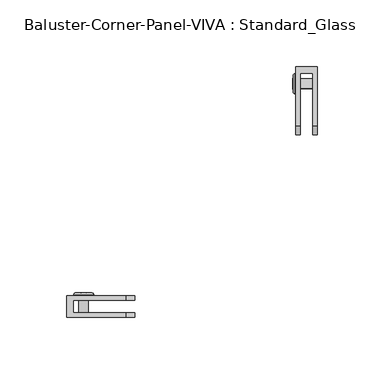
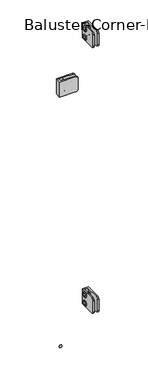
"""IFC4 building model written with IfcOpenShell, lengths in millimetres: railing geometry, Baluster-Corner-Panel-VIVA : Standard_Glass."""

from ifc_helpers import new_model, si_unit, point, frame, origin, place, context, project, spatial, polyline, circle_curve, ellipse_curve, trimmed, outline, extrude, source, transform, mapped, element, save
from ifc_brep_helpers import plane_surface, cylinder_surface, revolved_surface, advanced_brep


def baluster_corner_panel_viva_standard_glass_66f1dce7(model_context):
    return source(origin(), model_context, "Body", "SolidModel", [
        extrude(outline(polyline([(138.8430451, 917.178125), (136.7960809, 913.6326791), (132.7021526, 913.6326791), (130.6551885, 917.178125), (132.7021526, 920.7235709), (136.7960809, 920.7235709), (138.8430451, 917.178125)])), frame((21.7024185, 0.0, 0.0), z_axis=(1.0, 0.0, 0.0), x_axis=(0.0, 1.0, 0.0)), (0.0, 0.0, 1.0), 1.4969696),
        advanced_brep(
        [(36.7665, 138.2945627, 917.178125), (36.7665, 131.2036709, 917.178125), (24.0665, 131.2036709, 917.178125), (24.0665, 138.2945627, 917.178125), (24.0665, 127.3413277, 917.178125), (24.0665, 142.1569059, 917.178125), (23.199388, 136.4051922, 917.178125), (23.199388, 133.0930414, 917.178125), (36.7665, 133.0930414, 917.178125), (36.7665, 136.4051922, 917.178125), (23.2316551, 142.1569059, 917.178125), (23.2316551, 127.3413277, 917.178125), (21.9503831, 128.6225997, 917.178125), (21.9503831, 140.8756338, 917.178125), (21.9503831, 130.4505212, 917.178125), (21.9503831, 139.0477123, 917.178125), (23.199388, 130.4505212, 917.178125), (23.199388, 139.0477123, 917.178125)],
        [
            (0, 1, circle_curve(frame((36.7665, 134.7491168, 917.178125), z_axis=(-1.0, 0.0, 0.0), x_axis=(0.0, -1.0, 0.0)), 3.5454459)),
            (1, 2),
            (2, 3, circle_curve(frame((24.0665, 134.7491168, 917.178125), z_axis=(1.0, 0.0, 0.0), x_axis=(0.0, -1.0, 0.0)), 3.5454459)),
            (3, 0),
            (1, 0, circle_curve(frame((36.7665, 134.7491168, 917.178125), z_axis=(-1.0, 0.0, 0.0), x_axis=(0.0, -1.0, 0.0)), 3.5454459)),
            (3, 2, circle_curve(frame((24.0665, 134.7491168, 917.178125), z_axis=(1.0, 0.0, 0.0), x_axis=(0.0, -1.0, 0.0)), 3.5454459)),
            (2, 4),
            (4, 5, circle_curve(frame((24.0665, 134.7491168, 917.178125), z_axis=(1.0, 0.0, 0.0), x_axis=(0.0, -1.0, 0.0)), 7.4077891)),
            (5, 3),
            (5, 4, circle_curve(frame((24.0665, 134.7491168, 917.178125), z_axis=(1.0, 0.0, 0.0), x_axis=(0.0, -1.0, 0.0)), 7.4077891)),
            (6, 7, circle_curve(frame((23.199388, 134.7491168, 917.178125), z_axis=(-1.0, 0.0, 0.0), x_axis=(0.0, -1.0, 0.0)), 1.6560754)),
            (7, 8),
            (8, 9, circle_curve(frame((36.7665, 134.7491168, 917.178125), z_axis=(1.0, 0.0, 0.0), x_axis=(0.0, -1.0, 0.0)), 1.6560754)),
            (9, 6),
            (7, 6, circle_curve(frame((23.199388, 134.7491168, 917.178125), z_axis=(-1.0, 0.0, 0.0), x_axis=(0.0, -1.0, 0.0)), 1.6560754)),
            (9, 8, circle_curve(frame((36.7665, 134.7491168, 917.178125), z_axis=(1.0, 0.0, 0.0), x_axis=(0.0, -1.0, 0.0)), 1.6560754)),
            (10, 11, circle_curve(frame((23.2316551, 134.7491168, 917.178125), z_axis=(-1.0, 0.0, 0.0), x_axis=(0.0, -1.0, 0.0)), 7.4077891)),
            (11, 12, circle_curve(frame((23.2316551, 128.6225997, 917.178125), z_axis=(0.0, 0.0, -1.0), x_axis=(0.0, -1.0, 0.0)), 1.281272)),
            (12, 13, circle_curve(frame((21.9503831, 134.7491168, 917.178125), z_axis=(1.0, 0.0, 0.0), x_axis=(0.0, -1.0, 0.0)), 6.1265171)),
            (13, 10, circle_curve(frame((23.2316551, 140.8756338, 917.178125), z_axis=(0.0, 0.0, -1.0), x_axis=(0.0, 1.0, 0.0)), 1.281272)),
            (11, 10, circle_curve(frame((23.2316551, 134.7491168, 917.178125), z_axis=(-1.0, 0.0, 0.0), x_axis=(0.0, -1.0, 0.0)), 7.4077891)),
            (13, 12, circle_curve(frame((21.9503831, 134.7491168, 917.178125), z_axis=(1.0, 0.0, 0.0), x_axis=(0.0, -1.0, 0.0)), 6.1265171)),
            (12, 14),
            (14, 15, circle_curve(frame((21.9503831, 134.7491168, 917.178125), z_axis=(1.0, 0.0, 0.0), x_axis=(0.0, -1.0, 0.0)), 4.2985955)),
            (15, 13),
            (15, 14, circle_curve(frame((21.9503831, 134.7491168, 917.178125), z_axis=(1.0, 0.0, 0.0), x_axis=(0.0, -1.0, 0.0)), 4.2985955)),
            (4, 11),
            (10, 5),
            (8, 1),
            (0, 9),
            (14, 16),
            (16, 17, circle_curve(frame((23.199388, 134.7491168, 917.178125), z_axis=(1.0, 0.0, 0.0), x_axis=(0.0, -1.0, 0.0)), 4.2985955)),
            (17, 15),
            (17, 16, circle_curve(frame((23.199388, 134.7491168, 917.178125), z_axis=(1.0, 0.0, 0.0), x_axis=(0.0, -1.0, 0.0)), 4.2985955)),
            (16, 7),
            (6, 17),
        ],
        [
            cylinder_surface(frame((27.5632331, 134.7491168, 917.178125), z_axis=(1.0, 0.0, 0.0), x_axis=(0.0, -1.0, 0.0)), 3.5454459),
            plane_surface(frame((24.0665, 134.7491168, 917.178125), z_axis=(1.0, 0.0, 0.0), x_axis=(0.0, -1.0, 0.0))),
            revolved_surface(polyline([(36.7665, 133.0930414, 917.178125), (23.199388, 133.0930414, 917.178125)]), (27.5632331, 134.7491168, 917.178125), (1.0, 0.0, 0.0)),
            revolved_surface(trimmed(ellipse_curve(frame((23.2316551, 128.6225997, 917.178125), z_axis=(0.0, 0.0, 1.0), x_axis=(0.0, -1.0, 0.0)), 1.281272, 1.281272), [point((21.9503831, 128.6225997, 917.178125))], [point((23.2316551, 127.3413277, 917.178125))], True, "CARTESIAN"), (27.5632331, 134.7491168, 917.178125), (1.0, 0.0, 0.0)),
            plane_surface(frame((21.9503831, 134.7491168, 917.178125), z_axis=(-1.0, 0.0, 0.0), x_axis=(0.0, -1.0, 0.0))),
            cylinder_surface(frame((27.5632331, 134.7491168, 917.178125), z_axis=(1.0, 0.0, 0.0), x_axis=(0.0, -1.0, 0.0)), 7.4077891),
            plane_surface(frame((36.7665, 134.7491168, 917.178125), z_axis=(1.0, 0.0, 0.0), x_axis=(0.0, -1.0, 0.0))),
            revolved_surface(polyline([(23.199388, 130.4505213, 917.178125), (21.9503831, 130.4505213, 917.178125)]), (27.5632331, 134.7491168, 917.178125), (1.0, 0.0, 0.0)),
            plane_surface(frame((23.199388, 134.7491168, 917.178125), z_axis=(-1.0, 0.0, 0.0), x_axis=(0.0, -1.0, 0.0))),
        ],
        [
            (0, [[1, 2, 3, 4]]),
            (0, [[5, -4, 6, -2]]),
            (1, [[-3, 7, 8, 9]]),
            (1, [[-6, -9, 10, -7]]),
            (2, [[11, 12, 13, 14]]),
            (2, [[15, -14, 16, -12]]),
            (3, [[17, 18, 19, 20]]),
            (3, [[21, -20, 22, -18]]),
            (4, [[-19, 23, 24, 25]]),
            (4, [[-22, -25, 26, -23]]),
            (5, [[-8, 27, -17, 28]]),
            (5, [[-10, -28, -21, -27]]),
            (6, [[-13, 29, -1, 30]]),
            (6, [[-16, -30, -5, -29]]),
            (7, [[-24, 31, 32, 33]]),
            (7, [[-26, -33, 34, -31]]),
            (8, [[-32, 35, -11, 36]]),
            (8, [[-34, -36, -15, -35]]),
        ],
    ),
        advanced_brep(
        [(36.7665, 138.2945627, 892.571875), (36.7665, 131.2036709, 892.571875), (24.0665, 131.2036709, 892.571875), (24.0665, 138.2945627, 892.571875), (24.0665, 127.3413277, 892.571875), (24.0665, 142.1569059, 892.571875), (23.199388, 136.4051922, 892.571875), (23.199388, 133.0930414, 892.571875), (36.7665, 133.0930414, 892.571875), (36.7665, 136.4051922, 892.571875), (23.2316551, 142.1569059, 892.571875), (23.2316551, 127.3413277, 892.571875), (21.9503831, 128.6225997, 892.571875), (21.9503831, 140.8756338, 892.571875), (21.9503831, 130.4505212, 892.571875), (21.9503831, 139.0477123, 892.571875), (23.199388, 130.4505212, 892.571875), (23.199388, 139.0477123, 892.571875)],
        [
            (0, 1, circle_curve(frame((36.7665, 134.7491168, 892.571875), z_axis=(-1.0, 0.0, 0.0), x_axis=(0.0, -1.0, 0.0)), 3.5454459)),
            (1, 2),
            (2, 3, circle_curve(frame((24.0665, 134.7491168, 892.571875), z_axis=(1.0, 0.0, 0.0), x_axis=(0.0, -1.0, 0.0)), 3.5454459)),
            (3, 0),
            (1, 0, circle_curve(frame((36.7665, 134.7491168, 892.571875), z_axis=(-1.0, 0.0, 0.0), x_axis=(0.0, -1.0, 0.0)), 3.5454459)),
            (3, 2, circle_curve(frame((24.0665, 134.7491168, 892.571875), z_axis=(1.0, 0.0, 0.0), x_axis=(0.0, -1.0, 0.0)), 3.5454459)),
            (2, 4),
            (4, 5, circle_curve(frame((24.0665, 134.7491168, 892.571875), z_axis=(1.0, 0.0, 0.0), x_axis=(0.0, -1.0, 0.0)), 7.4077891)),
            (5, 3),
            (5, 4, circle_curve(frame((24.0665, 134.7491168, 892.571875), z_axis=(1.0, 0.0, 0.0), x_axis=(0.0, -1.0, 0.0)), 7.4077891)),
            (6, 7, circle_curve(frame((23.199388, 134.7491168, 892.571875), z_axis=(-1.0, 0.0, 0.0), x_axis=(0.0, -1.0, 0.0)), 1.6560754)),
            (7, 8),
            (8, 9, circle_curve(frame((36.7665, 134.7491168, 892.571875), z_axis=(1.0, 0.0, 0.0), x_axis=(0.0, -1.0, 0.0)), 1.6560754)),
            (9, 6),
            (7, 6, circle_curve(frame((23.199388, 134.7491168, 892.571875), z_axis=(-1.0, 0.0, 0.0), x_axis=(0.0, -1.0, 0.0)), 1.6560754)),
            (9, 8, circle_curve(frame((36.7665, 134.7491168, 892.571875), z_axis=(1.0, 0.0, 0.0), x_axis=(0.0, -1.0, 0.0)), 1.6560754)),
            (10, 11, circle_curve(frame((23.2316551, 134.7491168, 892.571875), z_axis=(-1.0, 0.0, 0.0), x_axis=(0.0, -1.0, 0.0)), 7.4077891)),
            (11, 12, circle_curve(frame((23.2316551, 128.6225997, 892.571875), z_axis=(0.0, 0.0, -1.0), x_axis=(0.0, -1.0, 0.0)), 1.281272)),
            (12, 13, circle_curve(frame((21.9503831, 134.7491168, 892.571875), z_axis=(1.0, 0.0, 0.0), x_axis=(0.0, -1.0, 0.0)), 6.1265171)),
            (13, 10, circle_curve(frame((23.2316551, 140.8756338, 892.571875), z_axis=(0.0, 0.0, -1.0), x_axis=(0.0, 1.0, 0.0)), 1.281272)),
            (11, 10, circle_curve(frame((23.2316551, 134.7491168, 892.571875), z_axis=(-1.0, 0.0, 0.0), x_axis=(0.0, -1.0, 0.0)), 7.4077891)),
            (13, 12, circle_curve(frame((21.9503831, 134.7491168, 892.571875), z_axis=(1.0, 0.0, 0.0), x_axis=(0.0, -1.0, 0.0)), 6.1265171)),
            (12, 14),
            (14, 15, circle_curve(frame((21.9503831, 134.7491168, 892.571875), z_axis=(1.0, 0.0, 0.0), x_axis=(0.0, -1.0, 0.0)), 4.2985955)),
            (15, 13),
            (15, 14, circle_curve(frame((21.9503831, 134.7491168, 892.571875), z_axis=(1.0, 0.0, 0.0), x_axis=(0.0, -1.0, 0.0)), 4.2985955)),
            (8, 1),
            (0, 9),
            (4, 11),
            (10, 5),
            (14, 16),
            (16, 17, circle_curve(frame((23.199388, 134.7491168, 892.571875), z_axis=(1.0, 0.0, 0.0), x_axis=(0.0, -1.0, 0.0)), 4.2985955)),
            (17, 15),
            (17, 16, circle_curve(frame((23.199388, 134.7491168, 892.571875), z_axis=(1.0, 0.0, 0.0), x_axis=(0.0, -1.0, 0.0)), 4.2985955)),
            (16, 7),
            (6, 17),
        ],
        [
            cylinder_surface(frame((27.5632331, 134.7491168, 892.571875), z_axis=(1.0, 0.0, 0.0), x_axis=(0.0, -1.0, 0.0)), 3.5454459),
            plane_surface(frame((24.0665, 134.7491168, 892.571875), z_axis=(1.0, 0.0, 0.0), x_axis=(0.0, -1.0, 0.0))),
            revolved_surface(polyline([(36.7665, 133.0930414, 892.571875), (23.199388, 133.0930414, 892.571875)]), (27.5632331, 134.7491168, 892.571875), (1.0, 0.0, 0.0)),
            revolved_surface(trimmed(ellipse_curve(frame((23.2316551, 128.6225997, 892.571875), z_axis=(0.0, 0.0, 1.0), x_axis=(0.0, -1.0, 0.0)), 1.281272, 1.281272), [point((21.9503831, 128.6225997, 892.571875))], [point((23.2316551, 127.3413277, 892.571875))], True, "CARTESIAN"), (27.5632331, 134.7491168, 892.571875), (1.0, 0.0, 0.0)),
            plane_surface(frame((21.9503831, 134.7491168, 892.571875), z_axis=(-1.0, 0.0, 0.0), x_axis=(0.0, -1.0, 0.0))),
            plane_surface(frame((36.7665, 134.7491168, 892.571875), z_axis=(1.0, 0.0, 0.0), x_axis=(0.0, -1.0, 0.0))),
            cylinder_surface(frame((27.5632331, 134.7491168, 892.571875), z_axis=(1.0, 0.0, 0.0), x_axis=(0.0, -1.0, 0.0)), 7.4077891),
            revolved_surface(polyline([(23.199388, 130.4505213, 892.571875), (21.9503831, 130.4505213, 892.571875)]), (27.5632331, 134.7491168, 892.571875), (1.0, 0.0, 0.0)),
            plane_surface(frame((23.199388, 134.7491168, 892.571875), z_axis=(-1.0, 0.0, 0.0), x_axis=(0.0, -1.0, 0.0))),
        ],
        [
            (0, [[1, 2, 3, 4]]),
            (0, [[5, -4, 6, -2]]),
            (1, [[-3, 7, 8, 9]]),
            (1, [[-6, -9, 10, -7]]),
            (2, [[11, 12, 13, 14]]),
            (2, [[15, -14, 16, -12]]),
            (3, [[17, 18, 19, 20]]),
            (3, [[21, -20, 22, -18]]),
            (4, [[-19, 23, 24, 25]]),
            (4, [[-22, -25, 26, -23]]),
            (5, [[-13, 27, -1, 28]]),
            (5, [[-16, -28, -5, -27]]),
            (6, [[-8, 29, -17, 30]]),
            (6, [[-10, -30, -21, -29]]),
            (7, [[-24, 31, 32, 33]]),
            (7, [[-26, -33, 34, -31]]),
            (8, [[-32, 35, -11, 36]]),
            (8, [[-34, -36, -15, -35]]),
        ],
    ),
        extrude(outline(polyline([(138.8430451, 892.571875), (136.7960809, 889.0264291), (132.7021526, 889.0264291), (130.6551885, 892.571875), (132.7021526, 896.1173209), (136.7960809, 896.1173209), (138.8430451, 892.571875)])), frame((21.7024185, 0.0, 0.0), z_axis=(1.0, 0.0, 0.0), x_axis=(0.0, 1.0, 0.0)), (0.0, 0.0, 1.0), 1.4969696),
        advanced_brep(
        [(24.0665, 147.3824615, 927.1), (24.0665, 147.3824615, 882.65), (24.0665, 102.9324615, 882.65), (24.0665, 96.5824615, 889.0), (24.0665, 96.5824615, 920.75), (24.0665, 102.9324615, 927.1), (39.9415, 147.3824615, 927.1), (39.9415, 102.9324615, 927.1), (39.9415, 96.5824615, 920.75), (39.9415, 96.5824615, 889.0), (39.9415, 102.9324615, 882.65), (39.9415, 147.3824615, 882.65), (36.7665, 102.9324615, 882.65), (36.7665, 142.6643811, 882.65), (27.2415, 142.6643811, 882.65), (27.2415, 102.9324615, 882.65), (36.7665, 142.6643811, 927.1), (27.2415, 142.6643811, 927.1), (27.2415, 102.9324615, 927.1), (27.2415, 96.5824615, 920.75), (27.2415, 96.5824615, 889.0), (36.7665, 96.5824615, 889.0), (36.7665, 96.5824615, 920.75), (36.7665, 102.9324615, 927.1)],
        [
            (0, 1),
            (1, 2),
            (2, 3, circle_curve(frame((24.0665, 102.9324615, 889.0), z_axis=(-1.0, 0.0, 0.0), x_axis=(0.0, -1.0, 0.0)), 6.35)),
            (3, 4),
            (4, 5, circle_curve(frame((24.0665, 102.9324615, 920.75), z_axis=(-1.0, 0.0, 0.0), x_axis=(0.0, -1.0, 0.0)), 6.35)),
            (5, 0),
            (6, 7),
            (7, 8, circle_curve(frame((39.9415, 102.9324615, 920.75), z_axis=(1.0, 0.0, 0.0), x_axis=(0.0, -1.0, 0.0)), 6.35)),
            (8, 9),
            (9, 10, circle_curve(frame((39.9415, 102.9324615, 889.0), z_axis=(1.0, 0.0, 0.0), x_axis=(0.0, -1.0, 0.0)), 6.35)),
            (10, 11),
            (11, 6),
            (0, 6),
            (11, 1),
            (10, 12),
            (12, 13),
            (13, 14),
            (14, 15),
            (15, 2),
            (13, 16),
            (16, 17),
            (17, 14),
            (17, 18),
            (18, 19, circle_curve(frame((27.2415, 102.9324615, 920.75), z_axis=(1.0, 0.0, 0.0), x_axis=(0.0, -1.0, 0.0)), 6.35)),
            (19, 20),
            (20, 15, circle_curve(frame((27.2415, 102.9324615, 889.0), z_axis=(1.0, 0.0, 0.0), x_axis=(0.0, -1.0, 0.0)), 6.35)),
            (12, 21, circle_curve(frame((36.7665, 102.9324615, 889.0), z_axis=(-1.0, 0.0, 0.0), x_axis=(0.0, -1.0, 0.0)), 6.35)),
            (21, 22),
            (22, 23, circle_curve(frame((36.7665, 102.9324615, 920.75), z_axis=(-1.0, 0.0, 0.0), x_axis=(0.0, -1.0, 0.0)), 6.35)),
            (23, 16),
            (20, 3),
            (9, 21),
            (19, 4),
            (8, 22),
            (18, 5),
            (7, 23),
        ],
        [
            plane_surface(frame((24.0665, 147.3824615, 882.65), z_axis=(-1.0, 0.0, 0.0), x_axis=(0.0, 0.0, -1.0))),
            plane_surface(frame((39.9415, 147.3824615, 882.65), z_axis=(1.0, 0.0, 0.0), x_axis=(0.0, 0.0, 1.0))),
            plane_surface(frame((24.0665, 147.3824615, 927.1), z_axis=(0.0, 1.0, 0.0), x_axis=(1.0, 0.0, 0.0))),
            plane_surface(frame((24.0665, 147.3824615, 882.65), z_axis=(0.0, 0.0, -1.0), x_axis=(1.0, 0.0, 0.0))),
            plane_surface(frame((36.7665, 142.6643811, 939.8), z_axis=(0.0, -1.0, 0.0), x_axis=(0.0, 0.0, -1.0))),
            plane_surface(frame((27.2415, 142.6643811, 939.8), z_axis=(1.0, 0.0, 0.0), x_axis=(0.0, 0.0, -1.0))),
            plane_surface(frame((36.7665, 83.8824615, 939.8), z_axis=(-1.0, 0.0, 0.0), x_axis=(0.0, 0.0, -1.0))),
            cylinder_surface(frame((39.9415, 102.9324615, 889.0), z_axis=(-1.0, 0.0, 0.0), x_axis=(0.0, -1.0, 0.0)), 6.35),
            plane_surface(frame((24.0665, 96.5824615, 889.0), z_axis=(0.0, -1.0, 0.0), x_axis=(1.0, 0.0, 0.0))),
            cylinder_surface(frame((39.9415, 102.9324615, 920.75), z_axis=(-1.0, 0.0, 0.0), x_axis=(0.0, -1.0, 0.0)), 6.35),
            plane_surface(frame((24.0665, 102.9324615, 927.1), z_axis=(0.0, 0.0, 1.0), x_axis=(1.0, 0.0, 0.0))),
        ],
        [
            (0, [[1, 2, 3, 4, 5, 6]]),
            (1, [[7, 8, 9, 10, 11, 12]]),
            (2, [[-1, 13, -12, 14]]),
            (3, [[-2, -14, -11, 15, 16, 17, 18, 19]]),
            (4, [[20, 21, 22, -17]]),
            (5, [[-22, 23, 24, 25, 26, -18]]),
            (6, [[-20, -16, 27, 28, 29, 30]]),
            (7, [[-3, -19, -26, 31]]),
            (7, [[-10, 32, -27, -15]]),
            (8, [[-4, -31, -25, 33]]),
            (8, [[-9, 34, -28, -32]]),
            (9, [[-5, -33, -24, 35]]),
            (9, [[-8, 36, -29, -34]]),
            (10, [[-6, -35, -23, -21, -30, -36, -7, -13]]),
        ],
    ),
        extrude(outline(polyline([(138.8430451, 138.7358896), (136.7960809, 135.1904437), (132.7021526, 135.1904437), (130.6551885, 138.7358896), (132.7021526, 142.2813355), (136.7960809, 142.2813355), (138.8430451, 138.7358896)])), frame((21.7024185, 0.0, 0.0), z_axis=(1.0, 0.0, 0.0), x_axis=(0.0, 1.0, 0.0)), (0.0, 0.0, 1.0), 1.4969696),
        advanced_brep(
        [(36.7665, 138.2945627, 138.7358896), (36.7665, 131.2036709, 138.7358896), (24.0665, 131.2036709, 138.7358896), (24.0665, 138.2945627, 138.7358896), (24.0665, 127.3413277, 138.7358896), (24.0665, 142.1569059, 138.7358896), (23.199388, 136.4051922, 138.7358896), (23.199388, 133.0930414, 138.7358896), (36.7665, 133.0930414, 138.7358896), (36.7665, 136.4051922, 138.7358896), (23.2316551, 142.1569059, 138.7358896), (23.2316551, 127.3413277, 138.7358896), (21.9503831, 128.6225997, 138.7358896), (21.9503831, 140.8756338, 138.7358896), (21.9503831, 130.4505212, 138.7358896), (21.9503831, 139.0477123, 138.7358896), (23.199388, 130.4505212, 138.7358896), (23.199388, 139.0477123, 138.7358896)],
        [
            (0, 1, circle_curve(frame((36.7665, 134.7491168, 138.7358896), z_axis=(-1.0, 0.0, 0.0), x_axis=(0.0, -1.0, 0.0)), 3.5454459)),
            (1, 2),
            (2, 3, circle_curve(frame((24.0665, 134.7491168, 138.7358896), z_axis=(1.0, 0.0, 0.0), x_axis=(0.0, -1.0, 0.0)), 3.5454459)),
            (3, 0),
            (1, 0, circle_curve(frame((36.7665, 134.7491168, 138.7358896), z_axis=(-1.0, 0.0, 0.0), x_axis=(0.0, -1.0, 0.0)), 3.5454459)),
            (3, 2, circle_curve(frame((24.0665, 134.7491168, 138.7358896), z_axis=(1.0, 0.0, 0.0), x_axis=(0.0, -1.0, 0.0)), 3.5454459)),
            (2, 4),
            (4, 5, circle_curve(frame((24.0665, 134.7491168, 138.7358896), z_axis=(1.0, 0.0, 0.0), x_axis=(0.0, -1.0, 0.0)), 7.4077891)),
            (5, 3),
            (5, 4, circle_curve(frame((24.0665, 134.7491168, 138.7358896), z_axis=(1.0, 0.0, 0.0), x_axis=(0.0, -1.0, 0.0)), 7.4077891)),
            (6, 7, circle_curve(frame((23.199388, 134.7491168, 138.7358896), z_axis=(-1.0, 0.0, 0.0), x_axis=(0.0, -1.0, 0.0)), 1.6560754)),
            (7, 8),
            (8, 9, circle_curve(frame((36.7665, 134.7491168, 138.7358896), z_axis=(1.0, 0.0, 0.0), x_axis=(0.0, -1.0, 0.0)), 1.6560754)),
            (9, 6),
            (7, 6, circle_curve(frame((23.199388, 134.7491168, 138.7358896), z_axis=(-1.0, 0.0, 0.0), x_axis=(0.0, -1.0, 0.0)), 1.6560754)),
            (9, 8, circle_curve(frame((36.7665, 134.7491168, 138.7358896), z_axis=(1.0, 0.0, 0.0), x_axis=(0.0, -1.0, 0.0)), 1.6560754)),
            (10, 11, circle_curve(frame((23.2316551, 134.7491168, 138.7358896), z_axis=(-1.0, 0.0, 0.0), x_axis=(0.0, -1.0, 0.0)), 7.4077891)),
            (11, 12, circle_curve(frame((23.2316551, 128.6225997, 138.7358896), z_axis=(0.0, 0.0, -1.0), x_axis=(0.0, -1.0, 0.0)), 1.281272)),
            (12, 13, circle_curve(frame((21.9503831, 134.7491168, 138.7358896), z_axis=(1.0, 0.0, 0.0), x_axis=(0.0, -1.0, 0.0)), 6.1265171)),
            (13, 10, circle_curve(frame((23.2316551, 140.8756338, 138.7358896), z_axis=(0.0, 0.0, -1.0), x_axis=(0.0, 1.0, 0.0)), 1.281272)),
            (11, 10, circle_curve(frame((23.2316551, 134.7491168, 138.7358896), z_axis=(-1.0, 0.0, 0.0), x_axis=(0.0, -1.0, 0.0)), 7.4077891)),
            (13, 12, circle_curve(frame((21.9503831, 134.7491168, 138.7358896), z_axis=(1.0, 0.0, 0.0), x_axis=(0.0, -1.0, 0.0)), 6.1265171)),
            (12, 14),
            (14, 15, circle_curve(frame((21.9503831, 134.7491168, 138.7358896), z_axis=(1.0, 0.0, 0.0), x_axis=(0.0, -1.0, 0.0)), 4.2985955)),
            (15, 13),
            (15, 14, circle_curve(frame((21.9503831, 134.7491168, 138.7358896), z_axis=(1.0, 0.0, 0.0), x_axis=(0.0, -1.0, 0.0)), 4.2985955)),
            (4, 11),
            (10, 5),
            (8, 1),
            (0, 9),
            (14, 16),
            (16, 17, circle_curve(frame((23.199388, 134.7491168, 138.7358896), z_axis=(1.0, 0.0, 0.0), x_axis=(0.0, -1.0, 0.0)), 4.2985955)),
            (17, 15),
            (17, 16, circle_curve(frame((23.199388, 134.7491168, 138.7358896), z_axis=(1.0, 0.0, 0.0), x_axis=(0.0, -1.0, 0.0)), 4.2985955)),
            (16, 7),
            (6, 17),
        ],
        [
            cylinder_surface(frame((27.5632331, 134.7491168, 138.7358896), z_axis=(1.0, 0.0, 0.0), x_axis=(0.0, -1.0, 0.0)), 3.5454459),
            plane_surface(frame((24.0665, 134.7491168, 138.7358896), z_axis=(1.0, 0.0, 0.0), x_axis=(0.0, -1.0, 0.0))),
            revolved_surface(polyline([(36.7665, 133.0930414, 138.7358896), (23.199388, 133.0930414, 138.7358896)]), (27.5632331, 134.7491168, 138.7358896), (1.0, 0.0, 0.0)),
            revolved_surface(trimmed(ellipse_curve(frame((23.2316551, 128.6225997, 138.7358896), z_axis=(0.0, 0.0, 1.0), x_axis=(0.0, -1.0, 0.0)), 1.281272, 1.281272), [point((21.9503831, 128.6225997, 138.7358896))], [point((23.2316551, 127.3413277, 138.7358896))], True, "CARTESIAN"), (27.5632331, 134.7491168, 138.7358896), (1.0, 0.0, 0.0)),
            plane_surface(frame((21.9503831, 134.7491168, 138.7358896), z_axis=(-1.0, 0.0, 0.0), x_axis=(0.0, -1.0, 0.0))),
            cylinder_surface(frame((27.5632331, 134.7491168, 138.7358896), z_axis=(1.0, 0.0, 0.0), x_axis=(0.0, -1.0, 0.0)), 7.4077891),
            plane_surface(frame((36.7665, 134.7491168, 138.7358896), z_axis=(1.0, 0.0, 0.0), x_axis=(0.0, -1.0, 0.0))),
            revolved_surface(polyline([(23.199388, 130.4505213, 138.7358896), (21.9503831, 130.4505213, 138.7358896)]), (27.5632331, 134.7491168, 138.7358896), (1.0, 0.0, 0.0)),
            plane_surface(frame((23.199388, 134.7491168, 138.7358896), z_axis=(-1.0, 0.0, 0.0), x_axis=(0.0, -1.0, 0.0))),
        ],
        [
            (0, [[1, 2, 3, 4]]),
            (0, [[5, -4, 6, -2]]),
            (1, [[-3, 7, 8, 9]]),
            (1, [[-6, -9, 10, -7]]),
            (2, [[11, 12, 13, 14]]),
            (2, [[15, -14, 16, -12]]),
            (3, [[17, 18, 19, 20]]),
            (3, [[21, -20, 22, -18]]),
            (4, [[-19, 23, 24, 25]]),
            (4, [[-22, -25, 26, -23]]),
            (5, [[-8, 27, -17, 28]]),
            (5, [[-10, -28, -21, -27]]),
            (6, [[-13, 29, -1, 30]]),
            (6, [[-16, -30, -5, -29]]),
            (7, [[-24, 31, 32, 33]]),
            (7, [[-26, -33, 34, -31]]),
            (8, [[-32, 35, -11, 36]]),
            (8, [[-34, -36, -15, -35]]),
        ],
    ),
        advanced_brep(
        [(36.7665, 138.2945627, 114.1296396), (36.7665, 131.2036709, 114.1296396), (24.0665, 131.2036709, 114.1296396), (24.0665, 138.2945627, 114.1296396), (24.0665, 127.3413277, 114.1296396), (24.0665, 142.1569059, 114.1296396), (23.199388, 136.4051922, 114.1296396), (23.199388, 133.0930414, 114.1296396), (36.7665, 133.0930414, 114.1296396), (36.7665, 136.4051922, 114.1296396), (23.2316551, 142.1569059, 114.1296396), (23.2316551, 127.3413277, 114.1296396), (21.9503831, 128.6225997, 114.1296396), (21.9503831, 140.8756338, 114.1296396), (21.9503831, 130.4505212, 114.1296396), (21.9503831, 139.0477123, 114.1296396), (23.199388, 130.4505212, 114.1296396), (23.199388, 139.0477123, 114.1296396)],
        [
            (0, 1, circle_curve(frame((36.7665, 134.7491168, 114.1296396), z_axis=(-1.0, 0.0, 0.0), x_axis=(0.0, -1.0, 0.0)), 3.5454459)),
            (1, 2),
            (2, 3, circle_curve(frame((24.0665, 134.7491168, 114.1296396), z_axis=(1.0, 0.0, 0.0), x_axis=(0.0, -1.0, 0.0)), 3.5454459)),
            (3, 0),
            (1, 0, circle_curve(frame((36.7665, 134.7491168, 114.1296396), z_axis=(-1.0, 0.0, 0.0), x_axis=(0.0, -1.0, 0.0)), 3.5454459)),
            (3, 2, circle_curve(frame((24.0665, 134.7491168, 114.1296396), z_axis=(1.0, 0.0, 0.0), x_axis=(0.0, -1.0, 0.0)), 3.5454459)),
            (2, 4),
            (4, 5, circle_curve(frame((24.0665, 134.7491168, 114.1296396), z_axis=(1.0, 0.0, 0.0), x_axis=(0.0, -1.0, 0.0)), 7.4077891)),
            (5, 3),
            (5, 4, circle_curve(frame((24.0665, 134.7491168, 114.1296396), z_axis=(1.0, 0.0, 0.0), x_axis=(0.0, -1.0, 0.0)), 7.4077891)),
            (6, 7, circle_curve(frame((23.199388, 134.7491168, 114.1296396), z_axis=(-1.0, 0.0, 0.0), x_axis=(0.0, -1.0, 0.0)), 1.6560754)),
            (7, 8),
            (8, 9, circle_curve(frame((36.7665, 134.7491168, 114.1296396), z_axis=(1.0, 0.0, 0.0), x_axis=(0.0, -1.0, 0.0)), 1.6560754)),
            (9, 6),
            (7, 6, circle_curve(frame((23.199388, 134.7491168, 114.1296396), z_axis=(-1.0, 0.0, 0.0), x_axis=(0.0, -1.0, 0.0)), 1.6560754)),
            (9, 8, circle_curve(frame((36.7665, 134.7491168, 114.1296396), z_axis=(1.0, 0.0, 0.0), x_axis=(0.0, -1.0, 0.0)), 1.6560754)),
            (10, 11, circle_curve(frame((23.2316551, 134.7491168, 114.1296396), z_axis=(-1.0, 0.0, 0.0), x_axis=(0.0, -1.0, 0.0)), 7.4077891)),
            (11, 12, circle_curve(frame((23.2316551, 128.6225997, 114.1296396), z_axis=(0.0, 0.0, -1.0), x_axis=(0.0, -1.0, 0.0)), 1.281272)),
            (12, 13, circle_curve(frame((21.9503831, 134.7491168, 114.1296396), z_axis=(1.0, 0.0, 0.0), x_axis=(0.0, -1.0, 0.0)), 6.1265171)),
            (13, 10, circle_curve(frame((23.2316551, 140.8756338, 114.1296396), z_axis=(0.0, 0.0, -1.0), x_axis=(0.0, 1.0, 0.0)), 1.281272)),
            (11, 10, circle_curve(frame((23.2316551, 134.7491168, 114.1296396), z_axis=(-1.0, 0.0, 0.0), x_axis=(0.0, -1.0, 0.0)), 7.4077891)),
            (13, 12, circle_curve(frame((21.9503831, 134.7491168, 114.1296396), z_axis=(1.0, 0.0, 0.0), x_axis=(0.0, -1.0, 0.0)), 6.1265171)),
            (12, 14),
            (14, 15, circle_curve(frame((21.9503831, 134.7491168, 114.1296396), z_axis=(1.0, 0.0, 0.0), x_axis=(0.0, -1.0, 0.0)), 4.2985955)),
            (15, 13),
            (15, 14, circle_curve(frame((21.9503831, 134.7491168, 114.1296396), z_axis=(1.0, 0.0, 0.0), x_axis=(0.0, -1.0, 0.0)), 4.2985955)),
            (8, 1),
            (0, 9),
            (4, 11),
            (10, 5),
            (14, 16),
            (16, 17, circle_curve(frame((23.199388, 134.7491168, 114.1296396), z_axis=(1.0, 0.0, 0.0), x_axis=(0.0, -1.0, 0.0)), 4.2985955)),
            (17, 15),
            (17, 16, circle_curve(frame((23.199388, 134.7491168, 114.1296396), z_axis=(1.0, 0.0, 0.0), x_axis=(0.0, -1.0, 0.0)), 4.2985955)),
            (16, 7),
            (6, 17),
        ],
        [
            cylinder_surface(frame((27.5632331, 134.7491168, 114.1296396), z_axis=(1.0, 0.0, 0.0), x_axis=(0.0, -1.0, 0.0)), 3.5454459),
            plane_surface(frame((24.0665, 134.7491168, 114.1296396), z_axis=(1.0, 0.0, 0.0), x_axis=(0.0, -1.0, 0.0))),
            revolved_surface(polyline([(36.7665, 133.0930414, 114.1296396), (23.199388, 133.0930414, 114.1296396)]), (27.5632331, 134.7491168, 114.1296396), (1.0, 0.0, 0.0)),
            revolved_surface(trimmed(ellipse_curve(frame((23.2316551, 128.6225997, 114.1296396), z_axis=(0.0, 0.0, 1.0), x_axis=(0.0, -1.0, 0.0)), 1.281272, 1.281272), [point((21.9503831, 128.6225997, 114.1296396))], [point((23.2316551, 127.3413277, 114.1296396))], True, "CARTESIAN"), (27.5632331, 134.7491168, 114.1296396), (1.0, 0.0, 0.0)),
            plane_surface(frame((21.9503831, 134.7491168, 114.1296396), z_axis=(-1.0, 0.0, 0.0), x_axis=(0.0, -1.0, 0.0))),
            plane_surface(frame((36.7665, 134.7491168, 114.1296396), z_axis=(1.0, 0.0, 0.0), x_axis=(0.0, -1.0, 0.0))),
            cylinder_surface(frame((27.5632331, 134.7491168, 114.1296396), z_axis=(1.0, 0.0, 0.0), x_axis=(0.0, -1.0, 0.0)), 7.4077891),
            revolved_surface(polyline([(23.199388, 130.4505213, 114.1296396), (21.9503831, 130.4505213, 114.1296396)]), (27.5632331, 134.7491168, 114.1296396), (1.0, 0.0, 0.0)),
            plane_surface(frame((23.199388, 134.7491168, 114.1296396), z_axis=(-1.0, 0.0, 0.0), x_axis=(0.0, -1.0, 0.0))),
        ],
        [
            (0, [[1, 2, 3, 4]]),
            (0, [[5, -4, 6, -2]]),
            (1, [[-3, 7, 8, 9]]),
            (1, [[-6, -9, 10, -7]]),
            (2, [[11, 12, 13, 14]]),
            (2, [[15, -14, 16, -12]]),
            (3, [[17, 18, 19, 20]]),
            (3, [[21, -20, 22, -18]]),
            (4, [[-19, 23, 24, 25]]),
            (4, [[-22, -25, 26, -23]]),
            (5, [[-13, 27, -1, 28]]),
            (5, [[-16, -28, -5, -27]]),
            (6, [[-8, 29, -17, 30]]),
            (6, [[-10, -30, -21, -29]]),
            (7, [[-24, 31, 32, 33]]),
            (7, [[-26, -33, 34, -31]]),
            (8, [[-32, 35, -11, 36]]),
            (8, [[-34, -36, -15, -35]]),
        ],
    ),
        extrude(outline(polyline([(138.8430451, 114.1296396), (136.7960809, 110.5841937), (132.7021526, 110.5841937), (130.6551885, 114.1296396), (132.7021526, 117.6750855), (136.7960809, 117.6750855), (138.8430451, 114.1296396)])), frame((21.7024185, 0.0, 0.0), z_axis=(1.0, 0.0, 0.0), x_axis=(0.0, 1.0, 0.0)), (0.0, 0.0, 1.0), 1.4969696),
        advanced_brep(
        [(24.0665, 147.3824615, 148.6577646), (24.0665, 147.3824615, 104.2077646), (24.0665, 102.9324615, 104.2077646), (24.0665, 96.5824615, 110.5577646), (24.0665, 96.5824615, 142.3077646), (24.0665, 102.9324615, 148.6577646), (39.9415, 147.3824615, 148.6577646), (39.9415, 102.9324615, 148.6577646), (39.9415, 96.5824615, 142.3077646), (39.9415, 96.5824615, 110.5577646), (39.9415, 102.9324615, 104.2077646), (39.9415, 147.3824615, 104.2077646), (36.7665, 102.9324615, 104.2077646), (36.7665, 142.6643811, 104.2077646), (27.2415, 142.6643811, 104.2077646), (27.2415, 102.9324615, 104.2077646), (36.7665, 142.6643811, 148.6577646), (27.2415, 142.6643811, 148.6577646), (27.2415, 102.9324615, 148.6577646), (27.2415, 96.5824615, 142.3077646), (27.2415, 96.5824615, 110.5577646), (36.7665, 96.5824615, 110.5577646), (36.7665, 96.5824615, 142.3077646), (36.7665, 102.9324615, 148.6577646)],
        [
            (0, 1),
            (1, 2),
            (2, 3, circle_curve(frame((24.0665, 102.9324615, 110.5577646), z_axis=(-1.0, 0.0, 0.0), x_axis=(0.0, -1.0, 0.0)), 6.35)),
            (3, 4),
            (4, 5, circle_curve(frame((24.0665, 102.9324615, 142.3077646), z_axis=(-1.0, 0.0, 0.0), x_axis=(0.0, -1.0, 0.0)), 6.35)),
            (5, 0),
            (6, 7),
            (7, 8, circle_curve(frame((39.9415, 102.9324615, 142.3077646), z_axis=(1.0, 0.0, 0.0), x_axis=(0.0, -1.0, 0.0)), 6.35)),
            (8, 9),
            (9, 10, circle_curve(frame((39.9415, 102.9324615, 110.5577646), z_axis=(1.0, 0.0, 0.0), x_axis=(0.0, -1.0, 0.0)), 6.35)),
            (10, 11),
            (11, 6),
            (0, 6),
            (11, 1),
            (10, 12),
            (12, 13),
            (13, 14),
            (14, 15),
            (15, 2),
            (13, 16),
            (16, 17),
            (17, 14),
            (17, 18),
            (18, 19, circle_curve(frame((27.2415, 102.9324615, 142.3077646), z_axis=(1.0, 0.0, 0.0), x_axis=(0.0, -1.0, 0.0)), 6.35)),
            (19, 20),
            (20, 15, circle_curve(frame((27.2415, 102.9324615, 110.5577646), z_axis=(1.0, 0.0, 0.0), x_axis=(0.0, -1.0, 0.0)), 6.35)),
            (12, 21, circle_curve(frame((36.7665, 102.9324615, 110.5577646), z_axis=(-1.0, 0.0, 0.0), x_axis=(0.0, -1.0, 0.0)), 6.35)),
            (21, 22),
            (22, 23, circle_curve(frame((36.7665, 102.9324615, 142.3077646), z_axis=(-1.0, 0.0, 0.0), x_axis=(0.0, -1.0, 0.0)), 6.35)),
            (23, 16),
            (20, 3),
            (9, 21),
            (19, 4),
            (8, 22),
            (18, 5),
            (7, 23),
        ],
        [
            plane_surface(frame((24.0665, 147.3824615, 104.2077646), z_axis=(-1.0, 0.0, 0.0), x_axis=(0.0, 0.0, -1.0))),
            plane_surface(frame((39.9415, 147.3824615, 104.2077646), z_axis=(1.0, 0.0, 0.0), x_axis=(0.0, 0.0, 1.0))),
            plane_surface(frame((24.0665, 147.3824615, 148.6577646), z_axis=(0.0, 1.0, 0.0), x_axis=(1.0, 0.0, 0.0))),
            plane_surface(frame((24.0665, 147.3824615, 104.2077646), z_axis=(0.0, 0.0, -1.0), x_axis=(1.0, 0.0, 0.0))),
            plane_surface(frame((36.7665, 142.6643811, 161.3577646), z_axis=(0.0, -1.0, 0.0), x_axis=(0.0, 0.0, -1.0))),
            plane_surface(frame((27.2415, 142.6643811, 161.3577646), z_axis=(1.0, 0.0, 0.0), x_axis=(0.0, 0.0, -1.0))),
            plane_surface(frame((36.7665, 83.8824615, 161.3577646), z_axis=(-1.0, 0.0, 0.0), x_axis=(0.0, 0.0, -1.0))),
            cylinder_surface(frame((39.9415, 102.9324615, 110.5577646), z_axis=(-1.0, 0.0, 0.0), x_axis=(0.0, -1.0, 0.0)), 6.35),
            plane_surface(frame((24.0665, 96.5824615, 110.5577646), z_axis=(0.0, -1.0, 0.0), x_axis=(1.0, 0.0, 0.0))),
            cylinder_surface(frame((39.9415, 102.9324615, 142.3077646), z_axis=(-1.0, 0.0, 0.0), x_axis=(0.0, -1.0, 0.0)), 6.35),
            plane_surface(frame((24.0665, 102.9324615, 148.6577646), z_axis=(0.0, 0.0, 1.0), x_axis=(1.0, 0.0, 0.0))),
        ],
        [
            (0, [[1, 2, 3, 4, 5, 6]]),
            (1, [[7, 8, 9, 10, 11, 12]]),
            (2, [[-1, 13, -12, 14]]),
            (3, [[-2, -14, -11, 15, 16, 17, 18, 19]]),
            (4, [[20, 21, 22, -17]]),
            (5, [[-22, 23, 24, 25, 26, -18]]),
            (6, [[-20, -16, 27, 28, 29, 30]]),
            (7, [[-3, -19, -26, 31]]),
            (7, [[-10, 32, -27, -15]]),
            (8, [[-4, -31, -25, 33]]),
            (8, [[-9, 34, -28, -32]]),
            (9, [[-5, -33, -24, 35]]),
            (9, [[-8, 36, -29, -34]]),
            (10, [[-6, -35, -23, -21, -30, -36, -7, -13]]),
        ],
    ),
        extrude(outline(polyline([(917.178125, -138.9194392), (913.6326791, -136.8724751), (913.6326791, -132.7785468), (917.178125, -130.7315827), (920.7235709, -132.7785468), (920.7235709, -136.8724751), (917.178125, -138.9194392)])), frame((0.0, -23.199388, 0.0), z_axis=(0.0, 1.0, 0.0), x_axis=(0.0, 0.0, 1.0)), (0.0, 0.0, 1.0), 1.4969696),
        advanced_brep(
        [(-138.3709569, -36.7665, 917.178125), (-138.3709569, -24.0665, 917.178125), (-131.280065, -24.0665, 917.178125), (-131.280065, -36.7665, 917.178125), (-142.2333, -24.0665, 917.178125), (-127.4177219, -24.0665, 917.178125), (-136.4815863, -23.199388, 917.178125), (-136.4815863, -36.7665, 917.178125), (-133.1694356, -36.7665, 917.178125), (-133.1694356, -23.199388, 917.178125), (-142.2333, -23.2316551, 917.178125), (-140.952028, -21.9503831, 917.178125), (-128.6989939, -21.9503831, 917.178125), (-127.4177219, -23.2316551, 917.178125), (-139.1241065, -21.9503831, 917.178125), (-130.5269154, -21.9503831, 917.178125), (-139.1241065, -23.199388, 917.178125), (-130.5269154, -23.199388, 917.178125)],
        [
            (0, 1),
            (1, 2, circle_curve(frame((-134.825511, -24.0665, 917.178125), z_axis=(0.0, -1.0, 0.0), x_axis=(1.0, 0.0, 0.0)), 3.5454459)),
            (2, 3),
            (3, 0, circle_curve(frame((-134.825511, -36.7665, 917.178125), z_axis=(0.0, 1.0, 0.0), x_axis=(1.0, 0.0, 0.0)), 3.5454459)),
            (2, 1, circle_curve(frame((-134.825511, -24.0665, 917.178125), z_axis=(0.0, -1.0, 0.0), x_axis=(1.0, 0.0, 0.0)), 3.5454459)),
            (0, 3, circle_curve(frame((-134.825511, -36.7665, 917.178125), z_axis=(0.0, 1.0, 0.0), x_axis=(1.0, 0.0, 0.0)), 3.5454459)),
            (1, 4),
            (4, 5, circle_curve(frame((-134.825511, -24.0665, 917.178125), z_axis=(0.0, -1.0, 0.0), x_axis=(1.0, 0.0, 0.0)), 7.4077891)),
            (5, 2),
            (5, 4, circle_curve(frame((-134.825511, -24.0665, 917.178125), z_axis=(0.0, -1.0, 0.0), x_axis=(1.0, 0.0, 0.0)), 7.4077891)),
            (6, 7),
            (7, 8, circle_curve(frame((-134.825511, -36.7665, 917.178125), z_axis=(0.0, -1.0, 0.0), x_axis=(1.0, 0.0, 0.0)), 1.6560754)),
            (8, 9),
            (9, 6, circle_curve(frame((-134.825511, -23.199388, 917.178125), z_axis=(0.0, 1.0, 0.0), x_axis=(1.0, 0.0, 0.0)), 1.6560754)),
            (8, 7, circle_curve(frame((-134.825511, -36.7665, 917.178125), z_axis=(0.0, -1.0, 0.0), x_axis=(1.0, 0.0, 0.0)), 1.6560754)),
            (6, 9, circle_curve(frame((-134.825511, -23.199388, 917.178125), z_axis=(0.0, 1.0, 0.0), x_axis=(1.0, 0.0, 0.0)), 1.6560754)),
            (10, 11, circle_curve(frame((-140.952028, -23.2316551, 917.178125), z_axis=(0.0, 0.0, -1.0), x_axis=(-1.0, 0.0, 0.0)), 1.281272)),
            (11, 12, circle_curve(frame((-134.825511, -21.9503831, 917.178125), z_axis=(0.0, -1.0, 0.0), x_axis=(1.0, 0.0, 0.0)), 6.1265171)),
            (12, 13, circle_curve(frame((-128.6989939, -23.2316551, 917.178125), z_axis=(0.0, 0.0, -1.0), x_axis=(1.0, 0.0, 0.0)), 1.281272)),
            (13, 10, circle_curve(frame((-134.825511, -23.2316551, 917.178125), z_axis=(0.0, 1.0, 0.0), x_axis=(1.0, 0.0, 0.0)), 7.4077891)),
            (12, 11, circle_curve(frame((-134.825511, -21.9503831, 917.178125), z_axis=(0.0, -1.0, 0.0), x_axis=(1.0, 0.0, 0.0)), 6.1265171)),
            (10, 13, circle_curve(frame((-134.825511, -23.2316551, 917.178125), z_axis=(0.0, 1.0, 0.0), x_axis=(1.0, 0.0, 0.0)), 7.4077891)),
            (11, 14),
            (14, 15, circle_curve(frame((-134.825511, -21.9503831, 917.178125), z_axis=(0.0, -1.0, 0.0), x_axis=(1.0, 0.0, 0.0)), 4.2985955)),
            (15, 12),
            (15, 14, circle_curve(frame((-134.825511, -21.9503831, 917.178125), z_axis=(0.0, -1.0, 0.0), x_axis=(1.0, 0.0, 0.0)), 4.2985955)),
            (4, 10),
            (13, 5),
            (7, 0),
            (3, 8),
            (14, 16),
            (16, 17, circle_curve(frame((-134.825511, -23.199388, 917.178125), z_axis=(0.0, -1.0, 0.0), x_axis=(1.0, 0.0, 0.0)), 4.2985955)),
            (17, 15),
            (17, 16, circle_curve(frame((-134.825511, -23.199388, 917.178125), z_axis=(0.0, -1.0, 0.0), x_axis=(1.0, 0.0, 0.0)), 4.2985955)),
            (16, 6),
            (9, 17),
        ],
        [
            cylinder_surface(frame((-134.825511, -27.5632331, 917.178125), z_axis=(0.0, -1.0, 0.0), x_axis=(1.0, 0.0, 0.0)), 3.5454459),
            plane_surface(frame((-134.825511, -24.0665, 917.178125), z_axis=(0.0, -1.0, 0.0), x_axis=(1.0, 0.0, 0.0))),
            revolved_surface(polyline([(-133.1694356, -36.7665, 917.178125), (-133.1694356, -23.199388, 917.178125)]), (-134.825511, -27.5632331, 917.178125), (0.0, -1.0, 0.0)),
            revolved_surface(trimmed(ellipse_curve(frame((-128.6989939, -23.2316551, 917.178125), z_axis=(0.0, 0.0, -1.0), x_axis=(1.0, 0.0, 0.0)), 1.281272, 1.281272), [point((-128.6989939, -21.9503831, 917.178125))], [point((-127.4177219, -23.2316551, 917.178125))], True, "CARTESIAN"), (-134.825511, -27.5632331, 917.178125), (0.0, -1.0, 0.0)),
            plane_surface(frame((-134.825511, -21.9503831, 917.178125), z_axis=(0.0, 1.0, 0.0), x_axis=(1.0, 0.0, 0.0))),
            cylinder_surface(frame((-134.825511, -27.5632331, 917.178125), z_axis=(0.0, -1.0, 0.0), x_axis=(1.0, 0.0, 0.0)), 7.4077891),
            plane_surface(frame((-134.825511, -36.7665, 917.178125), z_axis=(0.0, -1.0, 0.0), x_axis=(1.0, 0.0, 0.0))),
            revolved_surface(polyline([(-130.5269155, -23.199388, 917.178125), (-130.5269155, -21.9503831, 917.178125)]), (-134.825511, -27.5632331, 917.178125), (0.0, -1.0, 0.0)),
            plane_surface(frame((-134.825511, -23.199388, 917.178125), z_axis=(0.0, 1.0, 0.0), x_axis=(1.0, 0.0, 0.0))),
        ],
        [
            (0, [[1, 2, 3, 4]]),
            (0, [[-3, 5, -1, 6]]),
            (1, [[7, 8, 9, -2]]),
            (1, [[-9, 10, -7, -5]]),
            (2, [[11, 12, 13, 14]]),
            (2, [[-13, 15, -11, 16]]),
            (3, [[17, 18, 19, 20]]),
            (3, [[-19, 21, -17, 22]]),
            (4, [[23, 24, 25, -18]]),
            (4, [[-25, 26, -23, -21]]),
            (5, [[27, -20, 28, -8]]),
            (5, [[-28, -22, -27, -10]]),
            (6, [[29, -4, 30, -12]]),
            (6, [[-30, -6, -29, -15]]),
            (7, [[31, 32, 33, -24]]),
            (7, [[-33, 34, -31, -26]]),
            (8, [[35, -14, 36, -32]]),
            (8, [[-36, -16, -35, -34]]),
        ],
    ),
        advanced_brep(
        [(-138.3709569, -36.7665, 892.571875), (-138.3709569, -24.0665, 892.571875), (-131.280065, -24.0665, 892.571875), (-131.280065, -36.7665, 892.571875), (-142.2333, -24.0665, 892.571875), (-127.4177219, -24.0665, 892.571875), (-136.4815863, -23.199388, 892.571875), (-136.4815863, -36.7665, 892.571875), (-133.1694356, -36.7665, 892.571875), (-133.1694356, -23.199388, 892.571875), (-142.2333, -23.2316551, 892.571875), (-140.952028, -21.9503831, 892.571875), (-128.6989939, -21.9503831, 892.571875), (-127.4177219, -23.2316551, 892.571875), (-139.1241065, -21.9503831, 892.571875), (-130.5269154, -21.9503831, 892.571875), (-139.1241065, -23.199388, 892.571875), (-130.5269154, -23.199388, 892.571875)],
        [
            (0, 1),
            (1, 2, circle_curve(frame((-134.825511, -24.0665, 892.571875), z_axis=(0.0, -1.0, 0.0), x_axis=(1.0, 0.0, 0.0)), 3.5454459)),
            (2, 3),
            (3, 0, circle_curve(frame((-134.825511, -36.7665, 892.571875), z_axis=(0.0, 1.0, 0.0), x_axis=(1.0, 0.0, 0.0)), 3.5454459)),
            (2, 1, circle_curve(frame((-134.825511, -24.0665, 892.571875), z_axis=(0.0, -1.0, 0.0), x_axis=(1.0, 0.0, 0.0)), 3.5454459)),
            (0, 3, circle_curve(frame((-134.825511, -36.7665, 892.571875), z_axis=(0.0, 1.0, 0.0), x_axis=(1.0, 0.0, 0.0)), 3.5454459)),
            (1, 4),
            (4, 5, circle_curve(frame((-134.825511, -24.0665, 892.571875), z_axis=(0.0, -1.0, 0.0), x_axis=(1.0, 0.0, 0.0)), 7.4077891)),
            (5, 2),
            (5, 4, circle_curve(frame((-134.825511, -24.0665, 892.571875), z_axis=(0.0, -1.0, 0.0), x_axis=(1.0, 0.0, 0.0)), 7.4077891)),
            (6, 7),
            (7, 8, circle_curve(frame((-134.825511, -36.7665, 892.571875), z_axis=(0.0, -1.0, 0.0), x_axis=(1.0, 0.0, 0.0)), 1.6560754)),
            (8, 9),
            (9, 6, circle_curve(frame((-134.825511, -23.199388, 892.571875), z_axis=(0.0, 1.0, 0.0), x_axis=(1.0, 0.0, 0.0)), 1.6560754)),
            (8, 7, circle_curve(frame((-134.825511, -36.7665, 892.571875), z_axis=(0.0, -1.0, 0.0), x_axis=(1.0, 0.0, 0.0)), 1.6560754)),
            (6, 9, circle_curve(frame((-134.825511, -23.199388, 892.571875), z_axis=(0.0, 1.0, 0.0), x_axis=(1.0, 0.0, 0.0)), 1.6560754)),
            (10, 11, circle_curve(frame((-140.952028, -23.2316551, 892.571875), z_axis=(0.0, 0.0, -1.0), x_axis=(-1.0, 0.0, 0.0)), 1.281272)),
            (11, 12, circle_curve(frame((-134.825511, -21.9503831, 892.571875), z_axis=(0.0, -1.0, 0.0), x_axis=(1.0, 0.0, 0.0)), 6.1265171)),
            (12, 13, circle_curve(frame((-128.6989939, -23.2316551, 892.571875), z_axis=(0.0, 0.0, -1.0), x_axis=(1.0, 0.0, 0.0)), 1.281272)),
            (13, 10, circle_curve(frame((-134.825511, -23.2316551, 892.571875), z_axis=(0.0, 1.0, 0.0), x_axis=(1.0, 0.0, 0.0)), 7.4077891)),
            (12, 11, circle_curve(frame((-134.825511, -21.9503831, 892.571875), z_axis=(0.0, -1.0, 0.0), x_axis=(1.0, 0.0, 0.0)), 6.1265171)),
            (10, 13, circle_curve(frame((-134.825511, -23.2316551, 892.571875), z_axis=(0.0, 1.0, 0.0), x_axis=(1.0, 0.0, 0.0)), 7.4077891)),
            (11, 14),
            (14, 15, circle_curve(frame((-134.825511, -21.9503831, 892.571875), z_axis=(0.0, -1.0, 0.0), x_axis=(1.0, 0.0, 0.0)), 4.2985955)),
            (15, 12),
            (15, 14, circle_curve(frame((-134.825511, -21.9503831, 892.571875), z_axis=(0.0, -1.0, 0.0), x_axis=(1.0, 0.0, 0.0)), 4.2985955)),
            (7, 0),
            (3, 8),
            (4, 10),
            (13, 5),
            (14, 16),
            (16, 17, circle_curve(frame((-134.825511, -23.199388, 892.571875), z_axis=(0.0, -1.0, 0.0), x_axis=(1.0, 0.0, 0.0)), 4.2985955)),
            (17, 15),
            (17, 16, circle_curve(frame((-134.825511, -23.199388, 892.571875), z_axis=(0.0, -1.0, 0.0), x_axis=(1.0, 0.0, 0.0)), 4.2985955)),
            (16, 6),
            (9, 17),
        ],
        [
            cylinder_surface(frame((-134.825511, -27.5632331, 892.571875), z_axis=(0.0, -1.0, 0.0), x_axis=(1.0, 0.0, 0.0)), 3.5454459),
            plane_surface(frame((-134.825511, -24.0665, 892.571875), z_axis=(0.0, -1.0, 0.0), x_axis=(1.0, 0.0, 0.0))),
            revolved_surface(polyline([(-133.1694356, -36.7665, 892.571875), (-133.1694356, -23.199388, 892.571875)]), (-134.825511, -27.5632331, 892.571875), (0.0, -1.0, 0.0)),
            revolved_surface(trimmed(ellipse_curve(frame((-128.6989939, -23.2316551, 892.571875), z_axis=(0.0, 0.0, -1.0), x_axis=(1.0, 0.0, 0.0)), 1.281272, 1.281272), [point((-128.6989939, -21.9503831, 892.571875))], [point((-127.4177219, -23.2316551, 892.571875))], True, "CARTESIAN"), (-134.825511, -27.5632331, 892.571875), (0.0, -1.0, 0.0)),
            plane_surface(frame((-134.825511, -21.9503831, 892.571875), z_axis=(0.0, 1.0, 0.0), x_axis=(1.0, 0.0, 0.0))),
            plane_surface(frame((-134.825511, -36.7665, 892.571875), z_axis=(0.0, -1.0, 0.0), x_axis=(1.0, 0.0, 0.0))),
            cylinder_surface(frame((-134.825511, -27.5632331, 892.571875), z_axis=(0.0, -1.0, 0.0), x_axis=(1.0, 0.0, 0.0)), 7.4077891),
            revolved_surface(polyline([(-130.5269155, -23.199388, 892.571875), (-130.5269155, -21.9503831, 892.571875)]), (-134.825511, -27.5632331, 892.571875), (0.0, -1.0, 0.0)),
            plane_surface(frame((-134.825511, -23.199388, 892.571875), z_axis=(0.0, 1.0, 0.0), x_axis=(1.0, 0.0, 0.0))),
        ],
        [
            (0, [[1, 2, 3, 4]]),
            (0, [[-3, 5, -1, 6]]),
            (1, [[7, 8, 9, -2]]),
            (1, [[-9, 10, -7, -5]]),
            (2, [[11, 12, 13, 14]]),
            (2, [[-13, 15, -11, 16]]),
            (3, [[17, 18, 19, 20]]),
            (3, [[-19, 21, -17, 22]]),
            (4, [[23, 24, 25, -18]]),
            (4, [[-25, 26, -23, -21]]),
            (5, [[27, -4, 28, -12]]),
            (5, [[-28, -6, -27, -15]]),
            (6, [[29, -20, 30, -8]]),
            (6, [[-30, -22, -29, -10]]),
            (7, [[31, 32, 33, -24]]),
            (7, [[-33, 34, -31, -26]]),
            (8, [[35, -14, 36, -32]]),
            (8, [[-36, -16, -35, -34]]),
        ],
    ),
        extrude(outline(polyline([(892.571875, -138.9194392), (889.0264291, -136.8724751), (889.0264291, -132.7785468), (892.571875, -130.7315827), (896.1173209, -132.7785468), (896.1173209, -136.8724751), (892.571875, -138.9194392)])), frame((0.0, -23.199388, 0.0), z_axis=(0.0, 1.0, 0.0), x_axis=(0.0, 0.0, 1.0)), (0.0, 0.0, 1.0), 1.4969696),
        advanced_brep(
        [(-147.4588557, -24.0665, 927.1), (-103.0088557, -24.0665, 927.1), (-96.6588557, -24.0665, 920.75), (-96.6588557, -24.0665, 889.0), (-103.0088557, -24.0665, 882.65), (-147.4588557, -24.0665, 882.65), (-147.4588557, -39.9415, 927.1), (-147.4588557, -39.9415, 882.65), (-103.0088557, -39.9415, 882.65), (-96.6588557, -39.9415, 889.0), (-96.6588557, -39.9415, 920.75), (-103.0088557, -39.9415, 927.1), (-103.0088557, -27.2415, 882.65), (-142.7407753, -27.2415, 882.65), (-142.7407753, -36.7665, 882.65), (-103.0088557, -36.7665, 882.65), (-142.7407753, -27.2415, 927.1), (-142.7407753, -36.7665, 927.1), (-96.6588557, -27.2415, 889.0), (-96.6588557, -27.2415, 920.75), (-103.0088557, -27.2415, 927.1), (-103.0088557, -36.7665, 927.1), (-96.6588557, -36.7665, 920.75), (-96.6588557, -36.7665, 889.0)],
        [
            (0, 1),
            (1, 2, circle_curve(frame((-103.0088557, -24.0665, 920.75), z_axis=(0.0, 1.0, 0.0), x_axis=(1.0, 0.0, 0.0)), 6.35)),
            (2, 3),
            (3, 4, circle_curve(frame((-103.0088557, -24.0665, 889.0), z_axis=(0.0, 1.0, 0.0), x_axis=(1.0, 0.0, 0.0)), 6.35)),
            (4, 5),
            (5, 0),
            (6, 7),
            (7, 8),
            (8, 9, circle_curve(frame((-103.0088557, -39.9415, 889.0), z_axis=(0.0, -1.0, 0.0), x_axis=(1.0, 0.0, 0.0)), 6.35)),
            (9, 10),
            (10, 11, circle_curve(frame((-103.0088557, -39.9415, 920.75), z_axis=(0.0, -1.0, 0.0), x_axis=(1.0, 0.0, 0.0)), 6.35)),
            (11, 6),
            (5, 7),
            (6, 0),
            (4, 12),
            (12, 13),
            (13, 14),
            (14, 15),
            (15, 8),
            (13, 16),
            (16, 17),
            (17, 14),
            (12, 18, circle_curve(frame((-103.0088557, -27.2415, 889.0), z_axis=(0.0, -1.0, 0.0), x_axis=(1.0, 0.0, 0.0)), 6.35)),
            (18, 19),
            (19, 20, circle_curve(frame((-103.0088557, -27.2415, 920.75), z_axis=(0.0, -1.0, 0.0), x_axis=(1.0, 0.0, 0.0)), 6.35)),
            (20, 16),
            (17, 21),
            (21, 22, circle_curve(frame((-103.0088557, -36.7665, 920.75), z_axis=(0.0, 1.0, 0.0), x_axis=(1.0, 0.0, 0.0)), 6.35)),
            (22, 23),
            (23, 15, circle_curve(frame((-103.0088557, -36.7665, 889.0), z_axis=(0.0, 1.0, 0.0), x_axis=(1.0, 0.0, 0.0)), 6.35)),
            (23, 9),
            (3, 18),
            (22, 10),
            (2, 19),
            (21, 11),
            (1, 20),
        ],
        [
            plane_surface(frame((-147.4588557, -24.0665, 882.65), z_axis=(0.0, 1.0, 0.0), x_axis=(0.0, 0.0, -1.0))),
            plane_surface(frame((-147.4588557, -39.9415, 882.65), z_axis=(0.0, -1.0, 0.0), x_axis=(0.0, 0.0, 1.0))),
            plane_surface(frame((-147.4588557, -24.0665, 927.1), z_axis=(-1.0, 0.0, 0.0), x_axis=(0.0, -1.0, 0.0))),
            plane_surface(frame((-147.4588557, -24.0665, 882.65), z_axis=(0.0, 0.0, -1.0), x_axis=(0.0, -1.0, 0.0))),
            plane_surface(frame((-142.7407753, -36.7665, 939.8), z_axis=(1.0, 0.0, 0.0), x_axis=(0.0, 0.0, -1.0))),
            plane_surface(frame((-142.7407753, -27.2415, 939.8), z_axis=(0.0, -1.0, 0.0), x_axis=(0.0, 0.0, -1.0))),
            plane_surface(frame((-83.9588557, -36.7665, 939.8), z_axis=(0.0, 1.0, 0.0), x_axis=(0.0, 0.0, -1.0))),
            cylinder_surface(frame((-103.0088557, -39.9415, 889.0), z_axis=(0.0, 1.0, 0.0), x_axis=(1.0, 0.0, 0.0)), 6.35),
            plane_surface(frame((-96.6588557, -24.0665, 889.0), z_axis=(1.0, 0.0, 0.0), x_axis=(0.0, -1.0, 0.0))),
            cylinder_surface(frame((-103.0088557, -39.9415, 920.75), z_axis=(0.0, 1.0, 0.0), x_axis=(1.0, 0.0, 0.0)), 6.35),
            plane_surface(frame((-103.0088557, -24.0665, 927.1), z_axis=(0.0, 0.0, 1.0), x_axis=(0.0, -1.0, 0.0))),
        ],
        [
            (0, [[1, 2, 3, 4, 5, 6]]),
            (1, [[7, 8, 9, 10, 11, 12]]),
            (2, [[13, -7, 14, -6]]),
            (3, [[15, 16, 17, 18, 19, -8, -13, -5]]),
            (4, [[-17, 20, 21, 22]]),
            (5, [[-16, 23, 24, 25, 26, -20]]),
            (6, [[27, 28, 29, 30, -18, -22]]),
            (7, [[-19, -30, 31, -9]]),
            (7, [[32, -23, -15, -4]]),
            (8, [[-31, -29, 33, -10]]),
            (8, [[34, -24, -32, -3]]),
            (9, [[-33, -28, 35, -11]]),
            (9, [[36, -25, -34, -2]]),
            (10, [[-14, -12, -35, -27, -21, -26, -36, -1]]),
        ],
    ),
        extrude(outline(polyline([(138.7358896, -138.9194392), (135.1904437, -136.8724751), (135.1904437, -132.7785468), (138.7358896, -130.7315827), (142.2813355, -132.7785468), (142.2813355, -136.8724751), (138.7358896, -138.9194392)])), frame((0.0, -23.199388, 0.0), z_axis=(0.0, 1.0, 0.0), x_axis=(0.0, 0.0, 1.0)), (0.0, 0.0, 1.0), 1.4969696),
    ])


if __name__ == "__main__":
    model = new_model("IFC4")
    model_context = context("Model", 3, world=origin())
    ifc_project = project(units=[si_unit("LENGTHUNIT", "METRE", prefix="MILLI")], contexts=[model_context])
    site = spatial("IfcSite", under=ifc_project)
    building = spatial("IfcBuilding", under=site)
    placement = place(None, origin())
    baluster_corner_panel_viva_standard_glass_shape = baluster_corner_panel_viva_standard_glass_66f1dce7(model_context)
    element("IfcRailing", 1, ObjectType="Baluster-Corner-Panel-VIVA : Standard_Glass", at=placement, inside=building, context=model_context, shape_type="MappedRepresentation", body=[
        mapped(baluster_corner_panel_viva_standard_glass_shape, transform((0.0, 0.0, 0.0), x_axis=(1.0, 0.0, 0.0), y_axis=(0.0, 1.0, 0.0), z_axis=(0.0, 0.0, 1.0))),
    ])
    save(model, "model.ifc")
